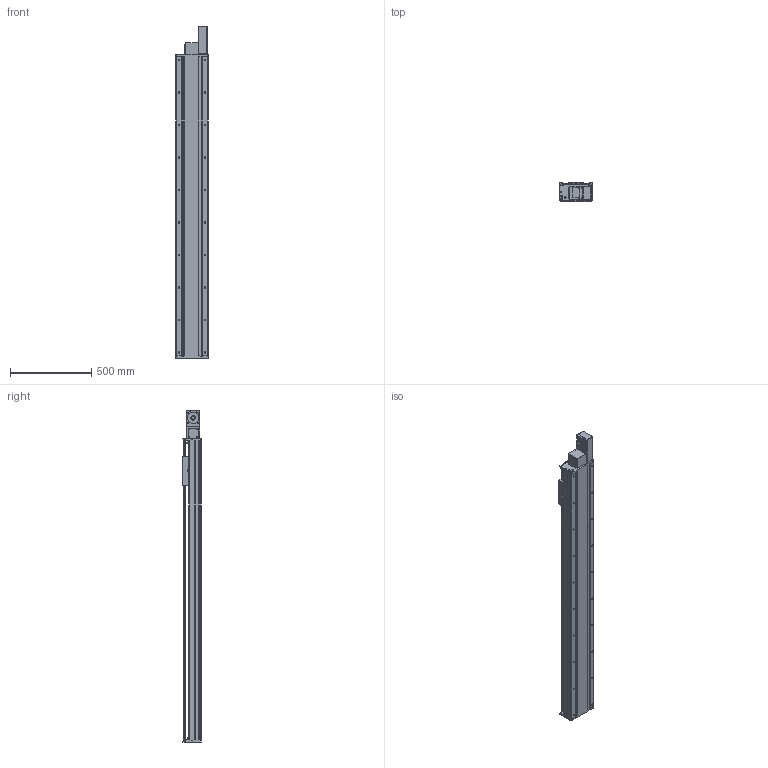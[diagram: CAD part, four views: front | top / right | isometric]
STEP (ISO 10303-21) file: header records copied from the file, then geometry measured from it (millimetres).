
FILE_DESCRIPTION(/* description */ (''),/* implementation_level */ '2;1');
FILE_NAME(/* name */ 'TKB200-FL-1600_asm1.stp',/* time_stamp */ '2016-05-18T10:20:57+08:00',/* author */ (''),/* organization */ (''),/* preprocessor_version */ 'ST-DEVELOPER v15',/* originating_system */ 'SIEMENS PLM Software NX 8.5',/* authorisation */ '');
FILE_SCHEMA (('AUTOMOTIVE_DESIGN { 1 0 10303 214 3 1 1 1 }'));
Length unit declared in the file: millimetre
Products named in the file (3): 200-2; 200-1; TKB200-FL-1600_asm1
Assembly tree (2 placements, depth 2):
  TKB200-FL-1600_asm1
    200-1
    200-2
Bounding box: 200 x 115 x 2045 mm (x, y, z)
Volume: 11744532.5 mm3; surface area: 3732451.9 mm2
Topology: 2 solids, 3 shells, 1060 faces, 3034 edges, 1954 vertices
Faces by surface type: cylinder 503, plane 471, cone 70, bspline 16
Full cylindrical faces by diameter (mm): 2.5 x2, 3.3 x16, 4.3 x4, 4.5 x8, 5 x2, 6.6 x34, 6.8 x8, 8 x6, 9 x28, 10 x4, 11 x22, 12 x16, 14 x20, 36 x1, 42 x2, 75 x1
Entity records: 36951 total; most frequent: CARTESIAN_POINT 10259, DIRECTION 5430, ORIENTED_EDGE 5372, EDGE_CURVE 2686, AXIS2_PLACEMENT_3D 1983, VERTEX_POINT 1852, EDGE_LOOP 1488, LINE 1464
